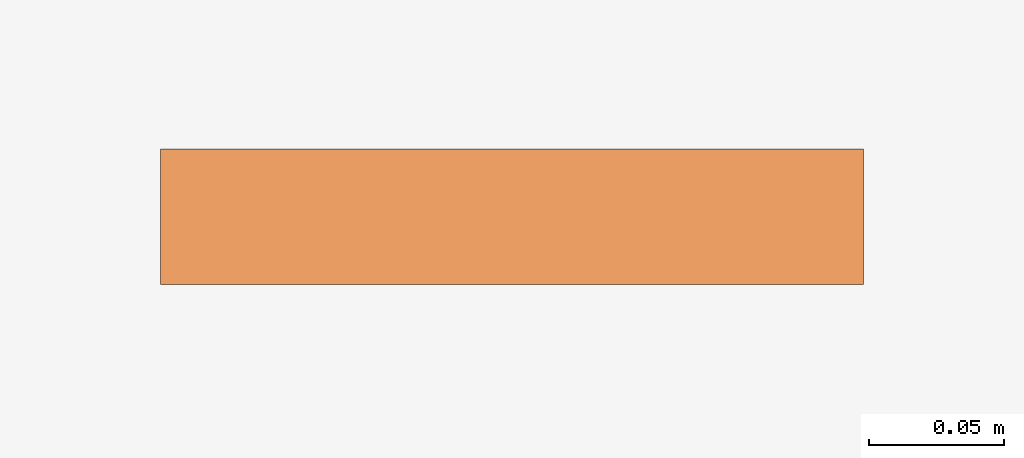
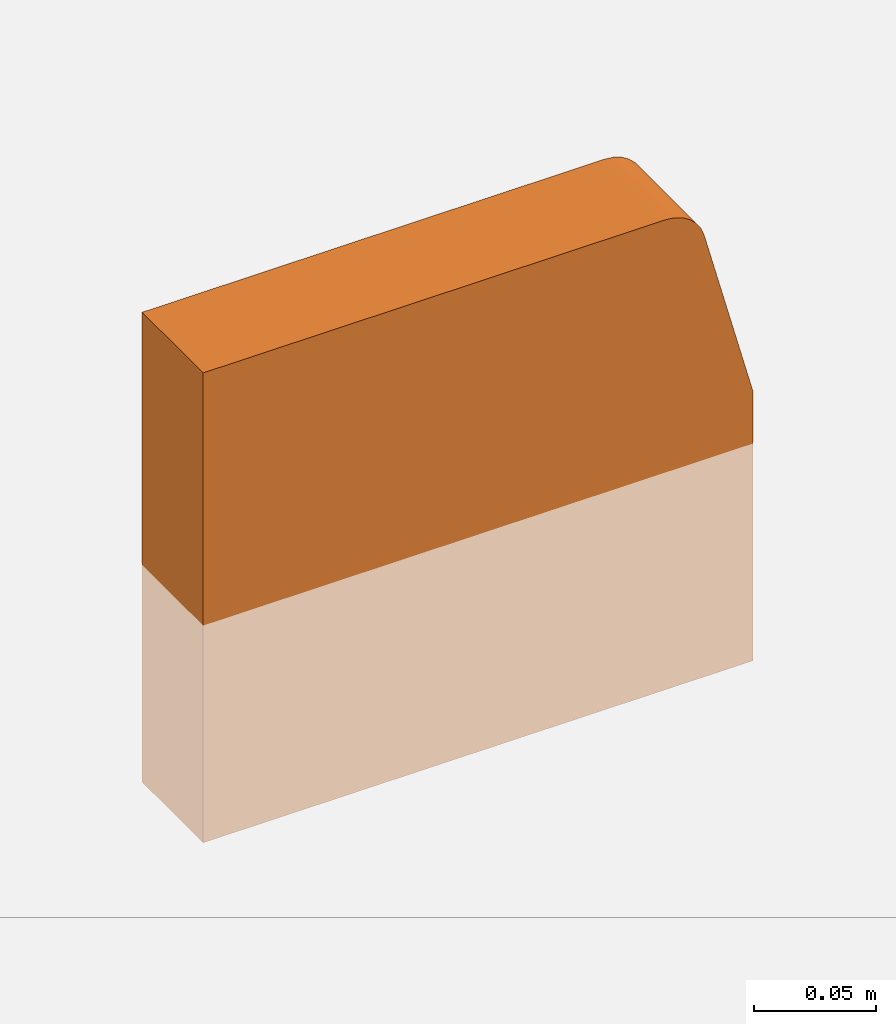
# One storey, part 2 of 2: 1 proxy.
"""IFC2X3 building model written with IfcOpenShell, lengths in millimetres."""

from ifc_helpers import new_model, entity, si_unit, converted_unit, direction, frame, frame_2d, origin, place, context, subcontext, project, spatial, polyline, circle_curve, parameter, trimmed, segment, composite_curve, outline, extrude, source, transform, mapped, material, element, save


model = new_model("IFC2X3")

# Units and contexts
model_context = context("Model", 3, precision=1e-06, world=origin(), true_north=direction((2.0, 6.12303176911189e-17, 1.0)))
context_of_model = context(None, 3, precision=1e-06, world=origin(), true_north=direction((2.0, 6.12303176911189e-17, 1.0)))
body_context = subcontext(model_context, "Body", "Model", "MODEL_VIEW")
ifc_project = project(units=[si_unit("LENGTHUNIT", "METRE", prefix="MILLI"), si_unit("AREAUNIT", "SQUARE_METRE", prefix="MILLI"), si_unit("VOLUMEUNIT", "CUBIC_METRE", prefix="MILLI"), converted_unit("PLANEANGLEUNIT", "DEGREE", entity("IfcRatioMeasure", 0.0174532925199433), si_unit("PLANEANGLEUNIT", "RADIAN"), dimensions=[0, 0, 0, 0, 0, 0, 0]), si_unit("TIMEUNIT", "SECOND")], contexts=[model_context, context_of_model])

# Site, building, storey
site_placement = place(None, origin())
site = spatial("IfcSite", under=ifc_project, at=site_placement, Name="Default", CompositionType="ELEMENT")
building_placement = place(site_placement, origin())
building = spatial("IfcBuilding", under=site, at=building_placement, CompositionType="ELEMENT")
storey_placement = place(building_placement, origin())
storey = spatial("IfcBuildingStorey", under=building, at=storey_placement, Name="Level 1", CompositionType="ELEMENT", Elevation=0.0)

# Proxy
ifc_material = material(Name="ACO Polymer Concrete.")
shared_shape = source(origin(), body_context, "Body", "SweptSolid", [
    extrude(outline(composite_curve([segment(polyline([(-137.652926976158, -162.600721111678), (97.3470730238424, -162.600721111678)]), True, "CONTINUOUS"), segment(polyline([(97.3470730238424, -162.600721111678), (97.3470730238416, 56.0251468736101)]), True, "CONTINUOUS"), segment(trimmed(circle_curve(frame_2d((78.3470730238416, 56.02514687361), x_axis=(0.0, 1.0)), 19.0), [parameter(270.0)], [parameter(345.0)], True, "PARAMETER"), True, "CONTINUOUS"), segment(polyline([(83.2646348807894, 74.3777375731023), (-2.65292697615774, 97.3992788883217)]), True, "CONTINUOUS"), segment(polyline([(-2.65292697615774, 97.3992788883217), (-137.652926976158, 97.3992788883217)]), True, "CONTINUOUS"), segment(polyline([(-137.652926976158, 97.3992788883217), (-137.652926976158, -162.600721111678)]), True, "CONTINUOUS")], self_intersect=False)), frame((32.6007307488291, 0.0, 27.6529269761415), z_axis=(0.0, 1.0, 0.0), x_axis=(0.0, 0.0, 1.0)), (0.0, 0.0, 1.0), 50.0),
])
proxy_placement = place(storey_placement, frame((-15229.1541432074, -316.659250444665, 0.0)))
element("IfcBuildingElementProxy", 1, at=proxy_placement, inside=storey, material=ifc_material, Name="Civil-Drainage-Channel-ACO-KerbDrain-KD200:T0134 - Closing end cap:T0134 - Closing end cap", ObjectType="T0134 - Closing end cap", CompositionType="ELEMENT", context=body_context, shape_type="MappedRepresentation", body=[
    mapped(shared_shape, transform((0.0, 0.0, 0.0), scale=1.0)),
])

save(model, "model.ifc")
